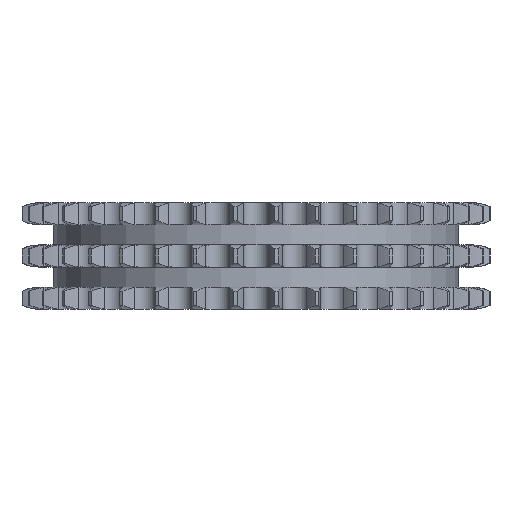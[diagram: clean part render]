
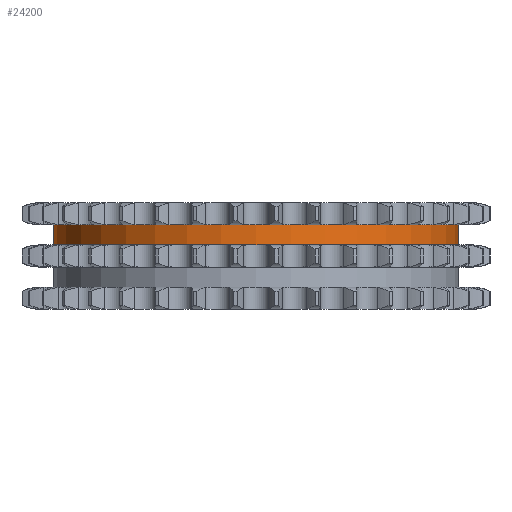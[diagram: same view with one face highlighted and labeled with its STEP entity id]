
A CAD part, left-side view. The second image highlights one B-rep face of the part: STEP entity #24200.
In plain terms, the highlighted cylindrical face has radius 48.644 mm (diameter 97.287 mm), a partial arc.
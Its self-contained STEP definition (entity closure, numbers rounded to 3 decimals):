
#4709=DIRECTION('',(0.,0.,-1.));
#4710=VECTOR('',#4709,4.85);
#4711=CARTESIAN_POINT('',(0.,48.644,7.5));
#4712=LINE('',#4711,#4710);
#4716=CARTESIAN_POINT('',(0.,0.,7.5));
#4717=DIRECTION('',(0.,0.,1.));
#4718=DIRECTION('',(0.,1.,0.));
#4719=AXIS2_PLACEMENT_3D('',#4716,#4717,#4718);
#4724=DIRECTION('',(0.,0.,-1.));
#4725=VECTOR('',#4724,4.85);
#4726=CARTESIAN_POINT('',(0.,-48.644,7.5));
#4727=LINE('',#4726,#4725);
#4731=CARTESIAN_POINT('',(0.,0.,2.65));
#4732=DIRECTION('',(0.,0.,1.));
#4733=DIRECTION('',(0.,1.,0.));
#4734=AXIS2_PLACEMENT_3D('',#4731,#4732,#4733);
#19460=CARTESIAN_POINT('',(0.,48.644,7.5));
#19461=CARTESIAN_POINT('',(0.,48.644,2.65));
#19462=VERTEX_POINT('',#19460);
#19463=VERTEX_POINT('',#19461);
#19464=CARTESIAN_POINT('',(0.,-48.644,7.5));
#19465=CARTESIAN_POINT('',(0.,-48.644,2.65));
#19466=VERTEX_POINT('',#19464);
#19467=VERTEX_POINT('',#19465);
#24188=CARTESIAN_POINT('',(0.,0.,8.25));
#24189=DIRECTION('',(0.,0.,-1.));
#24190=DIRECTION('',(0.,-1.,0.));
#24191=AXIS2_PLACEMENT_3D('',#24188,#24189,#24190);
#24192=CYLINDRICAL_SURFACE('',#24191,48.644);
#24193=ORIENTED_EDGE('',*,*,#24178,.F.);
#24194=ORIENTED_EDGE('',*,*,#24168,.T.);
#24195=ORIENTED_EDGE('',*,*,#24182,.T.);
#24197=ORIENTED_EDGE('',*,*,#24196,.F.);
#24198=EDGE_LOOP('',(#24193,#24194,#24195,#24197));
#24199=FACE_OUTER_BOUND('',#24198,.F.);
#24200=ADVANCED_FACE('',(#24199),#24192,.T.);
#4720=CIRCLE('',#4719,48.644);
#4735=CIRCLE('',#4734,48.644);
#24168=EDGE_CURVE('',#19462,#19466,#4720,.T.);
#24178=EDGE_CURVE('',#19462,#19463,#4712,.T.);
#24182=EDGE_CURVE('',#19466,#19467,#4727,.T.);
#24196=EDGE_CURVE('',#19463,#19467,#4735,.T.);
